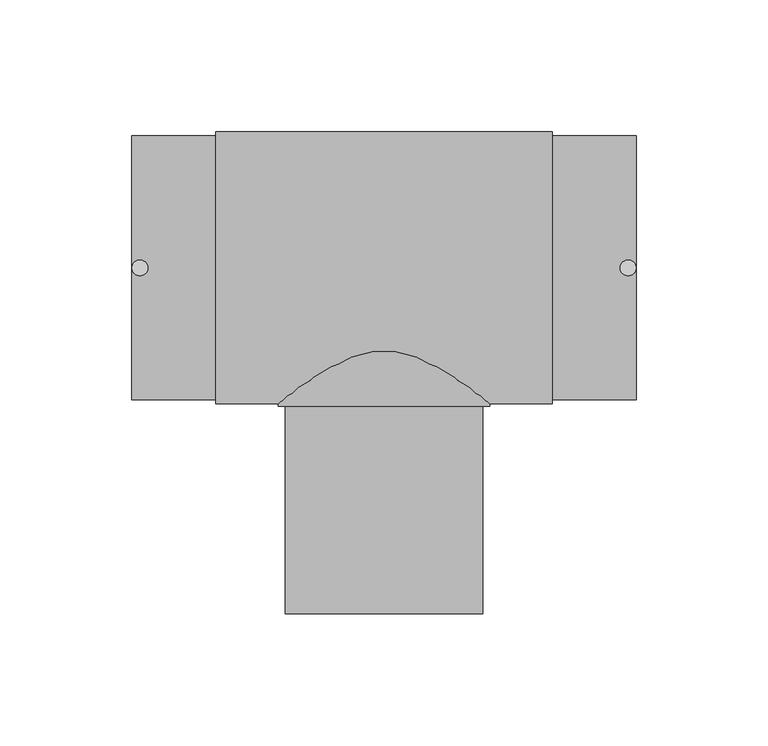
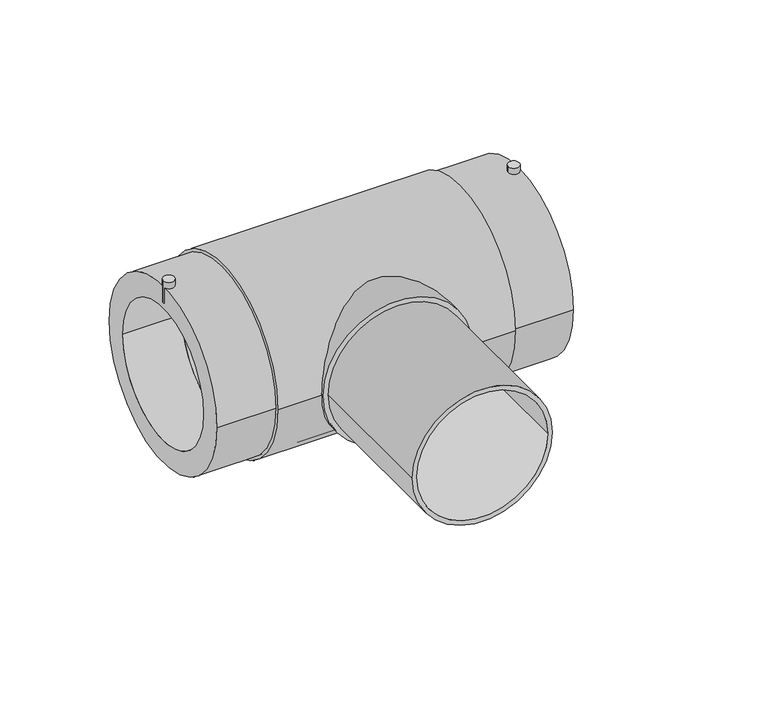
"""IFC4 building model written with IfcOpenShell, lengths in millimetres: pipe fitting geometry, EGB_VASEN_ PPR_Te electrosoldable WXRD300_Te reducida electrosoldable WXRD310 : Te electrosoldable."""

from ifc_helpers import new_model, si_unit, point, frame, frame_2d, origin, origin_2d, place, context, project, spatial, circle_curve, trimmed, segment, composite_curve, outline, extrude, source, transform, mapped, element, save


def pipe_fitting_ff13d424(model_context):
    return source(origin(), model_context, "Body", "SweptSolid", [
        extrude(outline(composite_curve([segment(trimmed(circle_curve(frame_2d((-92.5, 0.0)), 3.0), [point((-95.5, 0.0))], [point((-89.5, 0.0))], False, "CARTESIAN"), True, "CONTINUOUS"), segment(trimmed(circle_curve(frame_2d((-92.5, 0.0)), 3.0), [point((-89.5, 0.0))], [point((-95.5, 0.0))], False, "CARTESIAN"), True, "CONTINUOUS")], self_intersect=False)), frame((0.0, 0.0, 40.5), z_axis=(0.0, 0.0, 1.0), x_axis=(1.0, 0.0, 0.0)), (0.0, 0.0, 1.0), 12.5),
        extrude(outline(composite_curve([segment(trimmed(circle_curve(frame_2d((92.5, 0.0)), 3.0), [point((89.5, 0.0))], [point((95.5, 0.0))], False, "CARTESIAN"), True, "CONTINUOUS"), segment(trimmed(circle_curve(frame_2d((92.5, 0.0)), 3.0), [point((95.5, 0.0))], [point((89.5, 0.0))], False, "CARTESIAN"), True, "CONTINUOUS")], self_intersect=False)), frame((0.0, 0.0, 40.5), z_axis=(0.0, 0.0, 1.0), x_axis=(1.0, 0.0, 0.0)), (0.0, 0.0, 1.0), 12.5),
        extrude(outline(composite_curve([segment(trimmed(circle_curve(origin_2d(), 40.0), [point((0.0, 40.0))], [point((0.0, -40.0))], False, "CARTESIAN"), True, "CONTINUOUS"), segment(trimmed(circle_curve(origin_2d(), 40.0), [point((0.0, -40.0))], [point((0.0, 40.0))], False, "CARTESIAN"), True, "CONTINUOUS")], self_intersect=False)), frame((0.0, -52.4, 0.0), z_axis=(0.0, 1.0, 0.0), x_axis=(0.0, 0.0, 1.0)), (0.0, 0.0, 1.0), 52.4),
        extrude(outline(composite_curve([segment(trimmed(circle_curve(origin_2d(), 37.5), [point((0.0, -37.5))], [point((0.0, 37.5))], False, "CARTESIAN"), True, "CONTINUOUS"), segment(trimmed(circle_curve(origin_2d(), 37.5), [point((0.0, 37.5))], [point((0.0, -37.5))], False, "CARTESIAN"), True, "CONTINUOUS")], self_intersect=False), holes=[composite_curve([segment(trimmed(circle_curve(origin_2d(), 35.0), [point((0.0, -35.0))], [point((0.0, 35.0))], True, "CARTESIAN"), True, "CONTINUOUS"), segment(trimmed(circle_curve(origin_2d(), 35.0), [point((0.0, 35.0))], [point((0.0, -35.0))], True, "CARTESIAN"), True, "CONTINUOUS")], self_intersect=False)]), frame((0.0, -131.0, 0.0), z_axis=(0.0, 1.0, 0.0), x_axis=(0.0, 0.0, 1.0)), (0.0, 0.0, 1.0), 78.6),
        extrude(outline(composite_curve([segment(trimmed(circle_curve(origin_2d(), 51.5), [point((-51.5, 0.0))], [point((51.5, 0.0))], False, "CARTESIAN"), True, "CONTINUOUS"), segment(trimmed(circle_curve(origin_2d(), 51.5), [point((51.5, 0.0))], [point((-51.5, 0.0))], False, "CARTESIAN"), True, "CONTINUOUS")], self_intersect=False), holes=[composite_curve([segment(trimmed(circle_curve(origin_2d(), 37.5), [point((-37.5, 0.0))], [point((37.5, 0.0))], True, "CARTESIAN"), True, "CONTINUOUS"), segment(trimmed(circle_curve(origin_2d(), 37.5), [point((37.5, 0.0))], [point((-37.5, 0.0))], True, "CARTESIAN"), True, "CONTINUOUS")], self_intersect=False)]), frame((-63.6666667, 0.0, 0.0), z_axis=(1.0, 0.0, 0.0), x_axis=(0.0, 1.0, 0.0)), (0.0, 0.0, 1.0), 127.3333333),
        extrude(outline(composite_curve([segment(trimmed(circle_curve(origin_2d(), 50.0), [point((-50.0, 0.0))], [point((50.0, 0.0))], False, "CARTESIAN"), True, "CONTINUOUS"), segment(trimmed(circle_curve(origin_2d(), 50.0), [point((50.0, 0.0))], [point((-50.0, 0.0))], False, "CARTESIAN"), True, "CONTINUOUS")], self_intersect=False), holes=[composite_curve([segment(trimmed(circle_curve(origin_2d(), 37.5), [point((-37.5, 0.0))], [point((37.5, 0.0))], True, "CARTESIAN"), True, "CONTINUOUS"), segment(trimmed(circle_curve(origin_2d(), 37.5), [point((37.5, 0.0))], [point((-37.5, 0.0))], True, "CARTESIAN"), True, "CONTINUOUS")], self_intersect=False)]), frame((-95.5, 0.0, 0.0), z_axis=(1.0, 0.0, 0.0), x_axis=(0.0, 1.0, 0.0)), (0.0, 0.0, 1.0), 191.0),
    ])


if __name__ == "__main__":
    model = new_model("IFC4")
    model_context = context("Model", 3, world=origin())
    ifc_project = project(units=[si_unit("LENGTHUNIT", "METRE", prefix="MILLI")], contexts=[model_context])
    site = spatial("IfcSite", under=ifc_project)
    building = spatial("IfcBuilding", under=site)
    placement = place(None, origin())
    pipe_fitting_shape = pipe_fitting_ff13d424(model_context)
    element("IfcPipeFitting", 1, ObjectType="EGB_VASEN_ PPR_Te electrosoldable WXRD300_Te reducida electrosoldable WXRD310 : Te electrosoldable", at=placement, inside=building, context=model_context, shape_type="MappedRepresentation", body=[
        mapped(pipe_fitting_shape, transform((0.0, 0.0, 0.0), x_axis=(1.0, 0.0, 0.0), y_axis=(0.0, 1.0, 0.0), z_axis=(0.0, 0.0, 1.0))),
    ])
    save(model, "model.ifc")
